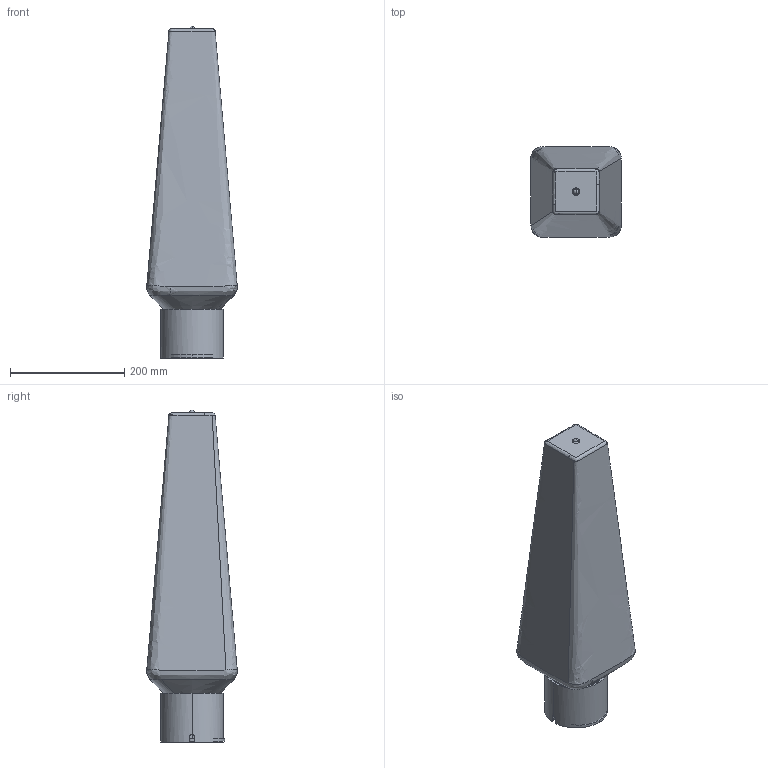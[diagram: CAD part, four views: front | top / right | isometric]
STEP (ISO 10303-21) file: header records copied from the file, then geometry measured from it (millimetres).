
FILE_DESCRIPTION (( 'STEP AP203' ), '1' );
FILE_NAME ('BABILONIA.STEP', '2024-04-29T08:35:33', ( '' ), ( '' ), 'SwSTEP 2.0', 'SolidWorks 2020', '' );
FILE_SCHEMA (( 'CONFIG_CONTROL_DESIGN' ));
Length unit declared in the file: millimetre
Products named in the file (13): led_46mm_700mA_6,5W_850lm_EA_CL094WXX; 7426C005; 7426C001; 7426C006; 7411C001; VITE AUTOF TCC_2,2x4,5_H04.5; GRUPPO LUCE X BABILONIA; 7426C007; 7426C004; 7411C030; BABILONIA; DISTANZIALE ESAGONALE F-F M4 H.60; ASSIEME GHIERE + VETRO
Assembly tree (15 placements, depth 3):
  BABILONIA
    7426C004
    GRUPPO LUCE X BABILONIA
      led_46mm_700mA_6,5W_850lm_EA_CL094WXX
      7411C030
      VITE AUTOF TCC_2,2x4,5_H04.5  x3
    7411C001
    7426C007
    ASSIEME GHIERE + VETRO
      7426C001
      7426C005
      7426C006
    DISTANZIALE ESAGONALE F-F M4 H.60  x2
Bounding box: 158.55 x 158.51 x 580.89 mm (x, y, z)
Volume: 1220836 mm3; surface area: 603469.2 mm2
Topology: 34 solids, 34 shells, 703 faces, 1714 edges, 1048 vertices
Faces by surface type: plane 280, cylinder 208, bspline 68, torus 58, cone 47, sphere 42
Entity records: 33926 total; most frequent: CARTESIAN_POINT 21357, DIRECTION 2292, ORIENTED_EDGE 2288, EDGE_CURVE 1144, AXIS2_PLACEMENT_3D 825, VERTEX_POINT 746, VECTOR 642, LINE 642
